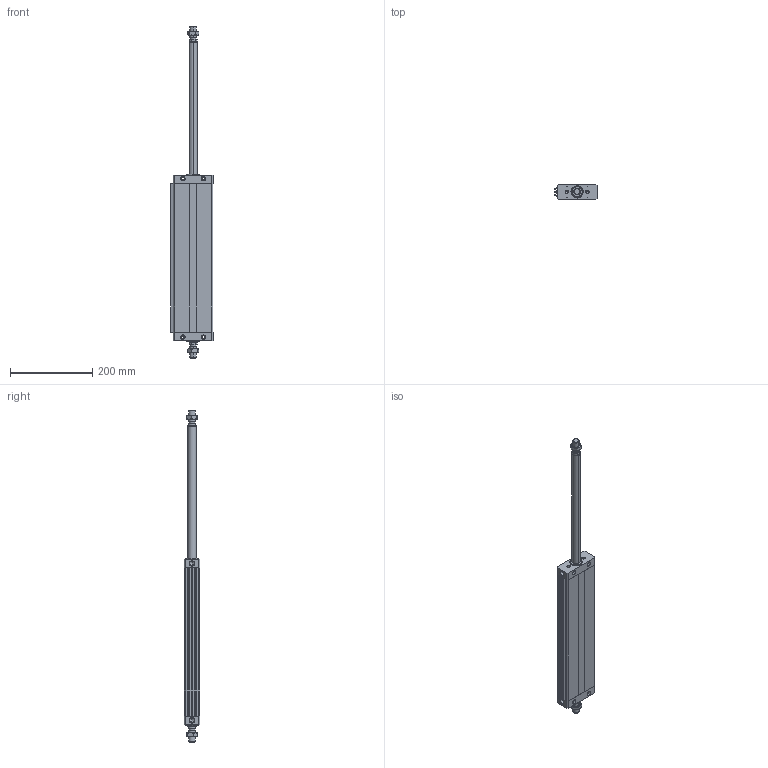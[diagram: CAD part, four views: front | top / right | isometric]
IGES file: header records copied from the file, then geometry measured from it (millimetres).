
Global section: file name: No Iges File Name specified; native system: Autodesk Inventor 2011; preprocessor: AutoDesk Inventor Iges Exporter R2011; author: airolcr1; date: 20101213.153434; units: millimetre
Bounding box: 102.5 x 38 x 806 mm (x, y, z)
Volume: 1008385.5 mm3; surface area: 279238.2 mm2
Topology: 6 solids, 6 shells, 280 faces, 664 edges, 396 vertices
Faces by surface type: bspline 114, plane 98, cone 36, cylinder 18, revolution 14
